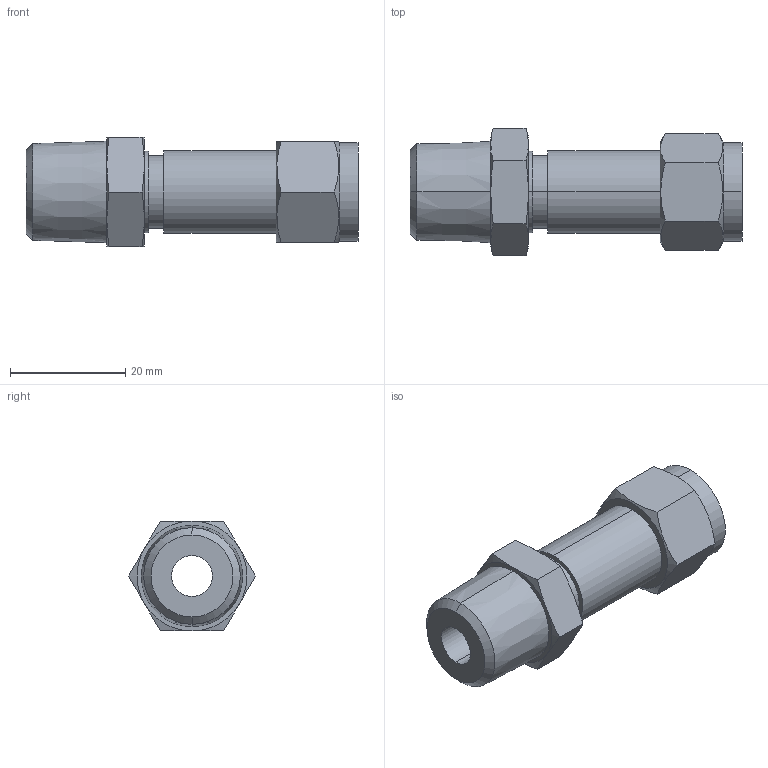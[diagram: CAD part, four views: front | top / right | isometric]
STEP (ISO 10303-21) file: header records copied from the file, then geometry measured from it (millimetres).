
FILE_DESCRIPTION (( 'STEP AP203' ), '1' );
FILE_NAME ('DSC06-06 SS.STEP', '2009-09-08T09:01:01', ( ' ' ), ( '' ), 'SwSTEP 2.0', 'SolidWorks 2008', '' );
FILE_SCHEMA (( 'CONFIG_CONTROL_DESIGN' ));
Length unit declared in the file: millimetre
Products named in the file (1): DSC06-06 SS
Bounding box: 57.5 x 22 x 19.05 mm (x, y, z)
Volume: 9574.8 mm3; surface area: 5154.1 mm2
Topology: 1 solids, 1 shells, 52 faces, 116 edges, 72 vertices
Faces by surface type: cone 20, plane 20, cylinder 12
Entity records: 1693 total; most frequent: CARTESIAN_POINT 497, ORIENTED_EDGE 232, DIRECTION 226, EDGE_CURVE 116, AXIS2_PLACEMENT_3D 97, VERTEX_POINT 72, EDGE_LOOP 60, ADVANCED_FACE 52
